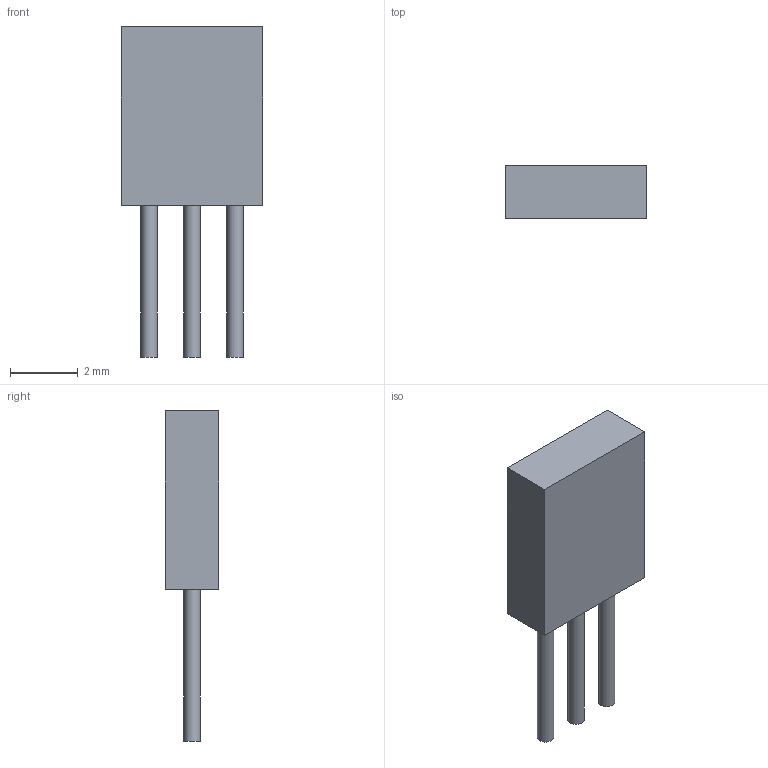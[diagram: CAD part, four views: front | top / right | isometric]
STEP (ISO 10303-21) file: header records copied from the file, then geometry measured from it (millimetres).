
FILE_DESCRIPTION(('STEP AP214'),'1');
FILE_NAME('SIP-3_4X3_ALM','2023-09-28T06:53:24',(''),(''),'','','');
FILE_SCHEMA(('AUTOMOTIVE_DESIGN'));
Length unit declared in the file: millimetre
Products named in the file (1): product
Bounding box: 4.17 x 1.57 x 9.73 mm (x, y, z)
Volume: 36.9 mm3; surface area: 94.9 mm2
Topology: 4 solids, 4 shells, 15 faces, 21 edges, 14 vertices
Faces by surface type: plane 12, cylinder 3
Full cylindrical faces by diameter (mm): 0.483 x3
Entity records: 492 total; most frequent: DIRECTION 62, CARTESIAN_POINT 39, ORIENTED_EDGE 36, AXIS2_PLACEMENT_3D 25, PRESENTATION_STYLE_ASSIGNMENT 18, SURFACE_STYLE_USAGE 18, SURFACE_SIDE_STYLE 18, SURFACE_STYLE_FILL_AREA 18
